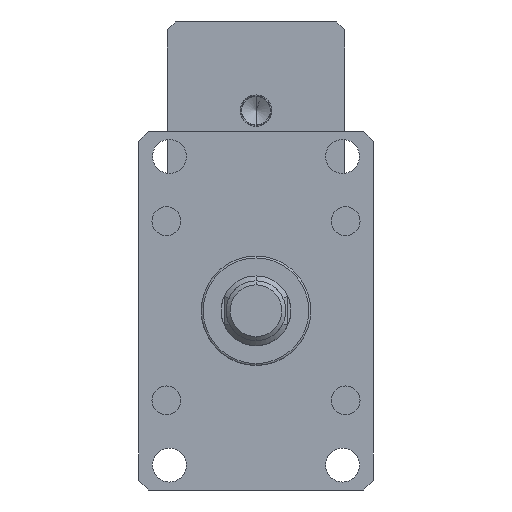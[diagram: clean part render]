
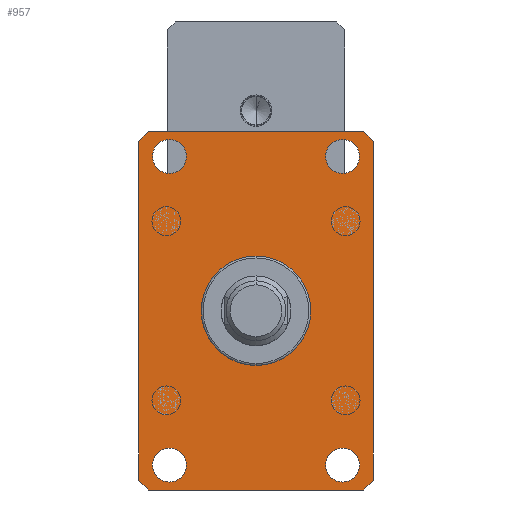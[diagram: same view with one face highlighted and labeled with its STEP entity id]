
A CAD part, front view. The second image highlights one B-rep face of the part: STEP entity #957.
In plain terms, the highlighted planar face has unit normal (0, -1, 0).
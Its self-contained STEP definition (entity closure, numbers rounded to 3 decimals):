
#78 = ORIENTED_EDGE ( 'NONE', *, *, #849, .T. ) ;
#149 = EDGE_CURVE ( 'NONE', #4975, #1753, #8095, .T. ) ;
#156 = CARTESIAN_POINT ( 'NONE',  ( 54., -55., 90. ) ) ;
#209 = EDGE_CURVE ( 'NONE', #10397, #2387, #4861, .T. ) ;
#236 = VERTEX_POINT ( 'NONE', #9565 ) ;
#345 = AXIS2_PLACEMENT_3D ( 'NONE', #12639, #6976, #872 ) ;
#570 = DIRECTION ( 'NONE',  ( 0., 0., -1. ) ) ;
#586 = VERTEX_POINT ( 'NONE', #2896 ) ;
#587 = EDGE_CURVE ( 'NONE', #4036, #5304, #7200, .T. ) ;
#653 = VECTOR ( 'NONE', #7321, 1000. ) ;
#773 = EDGE_CURVE ( 'NONE', #1510, #12601, #12039, .T. ) ;
#789 = CARTESIAN_POINT ( 'NONE',  ( 54., -55., 90. ) ) ;
#849 = EDGE_CURVE ( 'NONE', #5304, #4036, #970, .T. ) ;
#854 = EDGE_CURVE ( 'NONE', #12601, #7890, #1299, .T. ) ;
#867 = EDGE_CURVE ( 'NONE', #5353, #1510, #8396, .T. ) ;
#872 = DIRECTION ( 'NONE',  ( 0., 0., 1. ) ) ;
#888 = EDGE_CURVE ( 'NONE', #4510, #1223, #5469, .T. ) ;
#932 = EDGE_CURVE ( 'NONE', #2387, #10397, #2422, .T. ) ;
#957 = ADVANCED_FACE ( 'NONE', ( #12494, #4540, #9733, #11881, #1773 ), #4796, .F. ) ;
#970 = CIRCLE ( 'NONE', #2136, 8.5 ) ;
#1011 = EDGE_CURVE ( 'NONE', #236, #5147, #8824, .T. ) ;
#1047 = EDGE_CURVE ( 'NONE', #5147, #586, #5616, .T. ) ;
#1223 = VERTEX_POINT ( 'NONE', #8500 ) ;
#1227 = CARTESIAN_POINT ( 'NONE',  ( 59., -55., 85. ) ) ;
#1299 = LINE ( 'NONE', #1227, #653 ) ;
#1359 = ORIENTED_EDGE ( 'NONE', *, *, #932, .F. ) ;
#1510 = VERTEX_POINT ( 'NONE', #6513 ) ;
#1588 = EDGE_CURVE ( 'NONE', #1223, #4510, #10995, .T. ) ;
#1601 = EDGE_LOOP ( 'NONE', ( #78, #5466 ) ) ;
#1606 = ORIENTED_EDGE ( 'NONE', *, *, #7146, .T. ) ;
#1753 = VERTEX_POINT ( 'NONE', #4317 ) ;
#1771 = ORIENTED_EDGE ( 'NONE', *, *, #1588, .F. ) ;
#1773 = FACE_BOUND ( 'NONE', #3511, .T. ) ;
#1888 = AXIS2_PLACEMENT_3D ( 'NONE', #2657, #9625, #3706 ) ;
#1950 = LINE ( 'NONE', #3822, #9896 ) ;
#2136 = AXIS2_PLACEMENT_3D ( 'NONE', #9249, #3288, #10187 ) ;
#2159 = CARTESIAN_POINT ( 'NONE',  ( -59., -55., 85. ) ) ;
#2173 = CARTESIAN_POINT ( 'NONE',  ( -43.5, -55., -86. ) ) ;
#2188 = ORIENTED_EDGE ( 'NONE', *, *, #888, .F. ) ;
#2213 = CARTESIAN_POINT ( 'NONE',  ( 59., -55., 85. ) ) ;
#2255 = CARTESIAN_POINT ( 'NONE',  ( -54., -55., -90. ) ) ;
#2387 = VERTEX_POINT ( 'NONE', #3414 ) ;
#2422 = CIRCLE ( 'NONE', #1888, 8.5 ) ;
#2449 = CARTESIAN_POINT ( 'NONE',  ( 43.5, -55., -77.5 ) ) ;
#2521 = LINE ( 'NONE', #12588, #7598 ) ;
#2567 = CARTESIAN_POINT ( 'NONE',  ( 43.5, -55., 77.5 ) ) ;
#2657 = CARTESIAN_POINT ( 'NONE',  ( -43.5, -55., 77.5 ) ) ;
#2885 = VECTOR ( 'NONE', #6248, 1000. ) ;
#2896 = CARTESIAN_POINT ( 'NONE',  ( -59., -55., -85. ) ) ;
#3033 = ORIENTED_EDGE ( 'NONE', *, *, #209, .F. ) ;
#3288 = DIRECTION ( 'NONE',  ( 0., 1., 0. ) ) ;
#3388 = VECTOR ( 'NONE', #8413, 1000. ) ;
#3414 = CARTESIAN_POINT ( 'NONE',  ( -43.5, -55., 69. ) ) ;
#3484 = DIRECTION ( 'NONE',  ( 0., 0., 1. ) ) ;
#3511 = EDGE_LOOP ( 'NONE', ( #2188, #1771 ) ) ;
#3550 = DIRECTION ( 'NONE',  ( 0., 1., 0. ) ) ;
#3617 = DIRECTION ( 'NONE',  ( 0., 0., -1. ) ) ;
#3658 = ORIENTED_EDGE ( 'NONE', *, *, #7992, .T. ) ;
#3706 = DIRECTION ( 'NONE',  ( 0., 0., -1. ) ) ;
#3790 = CARTESIAN_POINT ( 'NONE',  ( -43.5, -55., -69. ) ) ;
#3822 = CARTESIAN_POINT ( 'NONE',  ( -59., -55., -85. ) ) ;
#3833 = CARTESIAN_POINT ( 'NONE',  ( -54., -55., -90. ) ) ;
#3896 = DIRECTION ( 'NONE',  ( -1., 0., 0. ) ) ;
#3994 = CARTESIAN_POINT ( 'NONE',  ( 59., -55., -85. ) ) ;
#4036 = VERTEX_POINT ( 'NONE', #2173 ) ;
#4317 = CARTESIAN_POINT ( 'NONE',  ( 43.5, -55., -69. ) ) ;
#4510 = VERTEX_POINT ( 'NONE', #4697 ) ;
#4540 = FACE_BOUND ( 'NONE', #6208, .T. ) ;
#4598 = ORIENTED_EDGE ( 'NONE', *, *, #867, .T. ) ;
#4618 = VERTEX_POINT ( 'NONE', #789 ) ;
#4658 = DIRECTION ( 'NONE',  ( 0., -1., 0. ) ) ;
#4697 = CARTESIAN_POINT ( 'NONE',  ( 43.5, -55., 86. ) ) ;
#4748 = ORIENTED_EDGE ( 'NONE', *, *, #9629, .T. ) ;
#4796 = PLANE ( 'NONE',  #5340 ) ;
#4861 = CIRCLE ( 'NONE', #10802, 8.5 ) ;
#4975 = VERTEX_POINT ( 'NONE', #12604 ) ;
#5147 = VERTEX_POINT ( 'NONE', #5295 ) ;
#5295 = CARTESIAN_POINT ( 'NONE',  ( -59., -55., 85. ) ) ;
#5304 = VERTEX_POINT ( 'NONE', #3790 ) ;
#5340 = AXIS2_PLACEMENT_3D ( 'NONE', #11503, #5777, #12458 ) ;
#5353 = VERTEX_POINT ( 'NONE', #3833 ) ;
#5372 = DIRECTION ( 'NONE',  ( 0.707, 0., 0.707 ) ) ;
#5378 = ORIENTED_EDGE ( 'NONE', *, *, #1047, .T. ) ;
#5466 = ORIENTED_EDGE ( 'NONE', *, *, #587, .T. ) ;
#5469 = CIRCLE ( 'NONE', #9521, 8.5 ) ;
#5616 = LINE ( 'NONE', #2159, #2885 ) ;
#5777 = DIRECTION ( 'NONE',  ( 0., 1., 0. ) ) ;
#6206 = DIRECTION ( 'NONE',  ( -0.707, 0., -0.707 ) ) ;
#6208 = EDGE_LOOP ( 'NONE', ( #3658, #7871 ) ) ;
#6225 = VECTOR ( 'NONE', #6206, 1000. ) ;
#6248 = DIRECTION ( 'NONE',  ( 0., 0., -1. ) ) ;
#6265 = DIRECTION ( 'NONE',  ( -0.707, 0., 0.707 ) ) ;
#6513 = CARTESIAN_POINT ( 'NONE',  ( 54., -55., -90. ) ) ;
#6655 = ORIENTED_EDGE ( 'NONE', *, *, #854, .T. ) ;
#6675 = DIRECTION ( 'NONE',  ( 0., -1., 0. ) ) ;
#6691 = ORIENTED_EDGE ( 'NONE', *, *, #773, .T. ) ;
#6899 = EDGE_CURVE ( 'NONE', #4618, #236, #2521, .T. ) ;
#6976 = DIRECTION ( 'NONE',  ( 0., 1., 0. ) ) ;
#7043 = ORIENTED_EDGE ( 'NONE', *, *, #1011, .T. ) ;
#7146 = EDGE_CURVE ( 'NONE', #7890, #4618, #8255, .T. ) ;
#7200 = CIRCLE ( 'NONE', #345, 8.5 ) ;
#7321 = DIRECTION ( 'NONE',  ( 0., 0., 1. ) ) ;
#7598 = VECTOR ( 'NONE', #3896, 1000. ) ;
#7871 = ORIENTED_EDGE ( 'NONE', *, *, #149, .T. ) ;
#7890 = VERTEX_POINT ( 'NONE', #2213 ) ;
#7992 = EDGE_CURVE ( 'NONE', #1753, #4975, #11206, .T. ) ;
#8095 = CIRCLE ( 'NONE', #8292, 8.5 ) ;
#8255 = LINE ( 'NONE', #156, #10743 ) ;
#8292 = AXIS2_PLACEMENT_3D ( 'NONE', #9490, #3550, #10402 ) ;
#8337 = CARTESIAN_POINT ( 'NONE',  ( 54., -55., -90. ) ) ;
#8396 = LINE ( 'NONE', #2255, #3388 ) ;
#8413 = DIRECTION ( 'NONE',  ( 1., 0., 0. ) ) ;
#8500 = CARTESIAN_POINT ( 'NONE',  ( 43.5, -55., 69. ) ) ;
#8782 = AXIS2_PLACEMENT_3D ( 'NONE', #10447, #4658, #11369 ) ;
#8824 = LINE ( 'NONE', #11905, #6225 ) ;
#9249 = CARTESIAN_POINT ( 'NONE',  ( -43.5, -55., -77.5 ) ) ;
#9296 = VECTOR ( 'NONE', #5372, 1000. ) ;
#9431 = DIRECTION ( 'NONE',  ( 0., 1., 0. ) ) ;
#9490 = CARTESIAN_POINT ( 'NONE',  ( 43.5, -55., -77.5 ) ) ;
#9521 = AXIS2_PLACEMENT_3D ( 'NONE', #2567, #9548, #3617 ) ;
#9548 = DIRECTION ( 'NONE',  ( 0., -1., 0. ) ) ;
#9565 = CARTESIAN_POINT ( 'NONE',  ( -54., -55., 90. ) ) ;
#9625 = DIRECTION ( 'NONE',  ( 0., -1., 0. ) ) ;
#9629 = EDGE_CURVE ( 'NONE', #586, #5353, #1950, .T. ) ;
#9733 = FACE_BOUND ( 'NONE', #1601, .T. ) ;
#9896 = VECTOR ( 'NONE', #10643, 1000. ) ;
#10102 = EDGE_LOOP ( 'NONE', ( #3033, #1359 ) ) ;
#10187 = DIRECTION ( 'NONE',  ( 0., 0., 1. ) ) ;
#10397 = VERTEX_POINT ( 'NONE', #12239 ) ;
#10402 = DIRECTION ( 'NONE',  ( 0., 0., 1. ) ) ;
#10447 = CARTESIAN_POINT ( 'NONE',  ( 43.5, -55., 77.5 ) ) ;
#10643 = DIRECTION ( 'NONE',  ( 0.707, 0., -0.707 ) ) ;
#10743 = VECTOR ( 'NONE', #6265, 1000. ) ;
#10802 = AXIS2_PLACEMENT_3D ( 'NONE', #12359, #6675, #570 ) ;
#10995 = CIRCLE ( 'NONE', #8782, 8.5 ) ;
#10999 = AXIS2_PLACEMENT_3D ( 'NONE', #2449, #9431, #3484 ) ;
#11206 = CIRCLE ( 'NONE', #10999, 8.5 ) ;
#11369 = DIRECTION ( 'NONE',  ( 0., 0., -1. ) ) ;
#11503 = CARTESIAN_POINT ( 'NONE',  ( 59., -55., -90. ) ) ;
#11685 = ORIENTED_EDGE ( 'NONE', *, *, #6899, .T. ) ;
#11712 = EDGE_LOOP ( 'NONE', ( #4598, #6691, #6655, #1606, #11685, #7043, #5378, #4748 ) ) ;
#11881 = FACE_OUTER_BOUND ( 'NONE', #11712, .T. ) ;
#11905 = CARTESIAN_POINT ( 'NONE',  ( -59., -55., 85. ) ) ;
#12039 = LINE ( 'NONE', #8337, #9296 ) ;
#12239 = CARTESIAN_POINT ( 'NONE',  ( -43.5, -55., 86. ) ) ;
#12359 = CARTESIAN_POINT ( 'NONE',  ( -43.5, -55., 77.5 ) ) ;
#12458 = DIRECTION ( 'NONE',  ( 0., 0., 1. ) ) ;
#12494 = FACE_BOUND ( 'NONE', #10102, .T. ) ;
#12588 = CARTESIAN_POINT ( 'NONE',  ( -54., -55., 90. ) ) ;
#12601 = VERTEX_POINT ( 'NONE', #3994 ) ;
#12604 = CARTESIAN_POINT ( 'NONE',  ( 43.5, -55., -86. ) ) ;
#12639 = CARTESIAN_POINT ( 'NONE',  ( -43.5, -55., -77.5 ) ) ;
